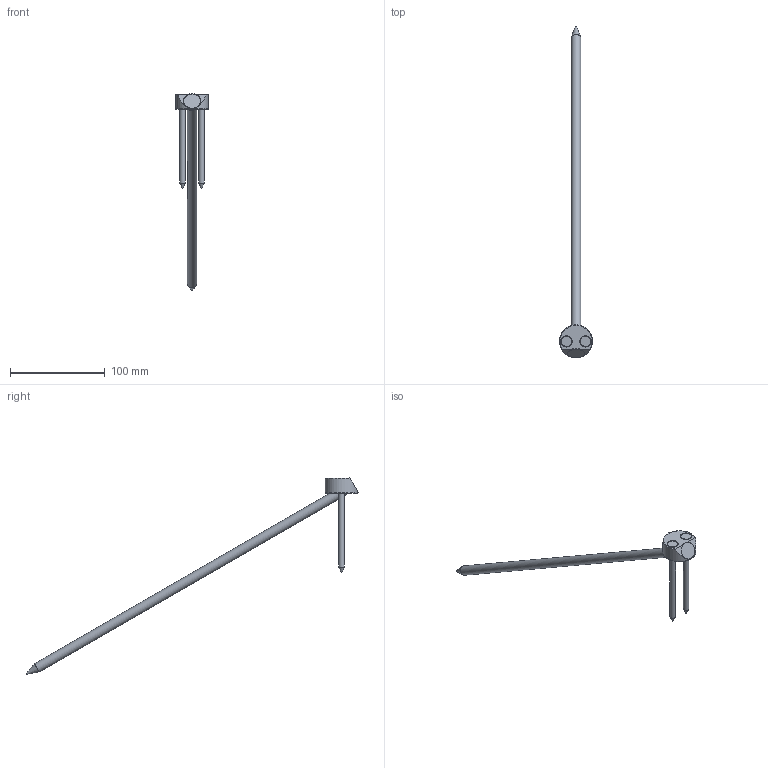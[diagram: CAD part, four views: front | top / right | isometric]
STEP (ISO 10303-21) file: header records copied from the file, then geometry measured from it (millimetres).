
FILE_DESCRIPTION(/* description */ ('Unknown'),/* implementation_level */ '2;1');
FILE_NAME(/* name */ 'T-Joint_D35_W30_2xSK6x100_1xSK10x400',/* time_stamp */ '2020-07-13T10:09:35+02:00',/* author */ ('Unknown'),/* organization */ ('Unknown'),/* preprocessor_version */ 'ST-DEVELOPER v16.7',/* originating_system */ 'DEX',/* authorisation */ $);
FILE_SCHEMA (('AUTOMOTIVE_DESIGN {1 0 10303 214 3 1 1}'));
Length unit declared in the file: millimetre
Products named in the file (4): T-Joint_D35_W30_2xSK6x100_1xSK10x400; T-Joint_D35_W30; SK Schraube 6x100_ohne_Gewinde; SK Schraube 10x400_ohne_Gewinde_22042020
Assembly tree (4 placements, depth 2):
  T-Joint_D35_W30_2xSK6x100_1xSK10x400
    T-Joint_D35_W30
    SK Schraube 6x100_ohne_Gewinde  x2
    SK Schraube 10x400_ohne_Gewinde_22042020
Bounding box: 34.79 x 351.18 x 208.2 mm (x, y, z)
Volume: 47352.4 mm3; surface area: 20992.4 mm2
Topology: 4 solids, 4 shells, 35 faces, 67 edges, 41 vertices
Faces by surface type: cylinder 12, plane 11, cone 9, torus 3
Full cylindrical faces by diameter (mm): 6 x2, 6.2 x2, 6.3 x1, 10 x2, 11 x2, 12.5 x1, 18 x1, 34.8 x1
Entity records: 738 total; most frequent: DIRECTION 128, CARTESIAN_POINT 111, ORIENTED_EDGE 68, AXIS2_PLACEMENT_3D 63, EDGE_LOOP 55, FACE_BOUND 55, EDGE_CURVE 34, VERTEX_POINT 31
